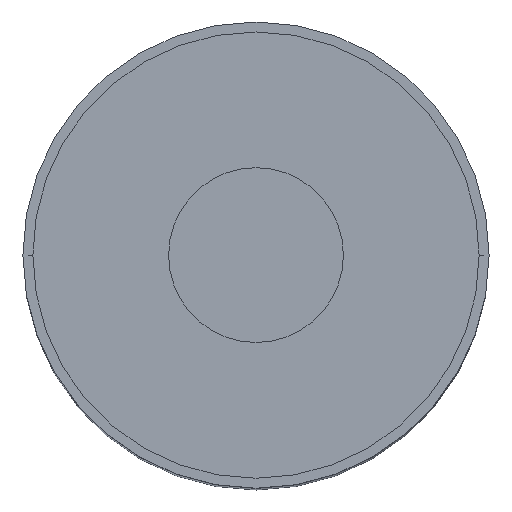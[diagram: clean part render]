
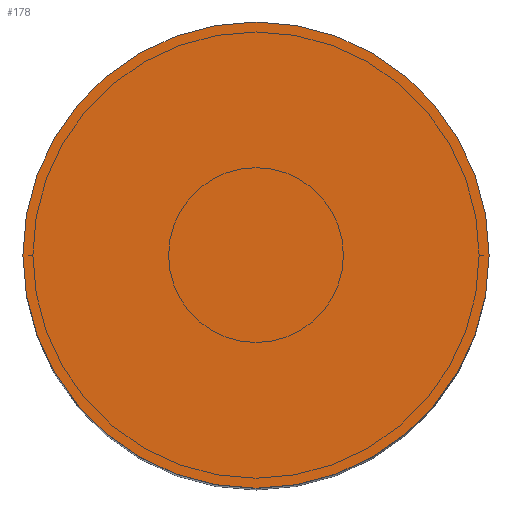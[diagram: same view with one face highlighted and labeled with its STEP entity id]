
A CAD part, top view. The second image highlights one B-rep face of the part: STEP entity #178.
In plain terms, the highlighted planar face has unit normal (0, 0, 1).
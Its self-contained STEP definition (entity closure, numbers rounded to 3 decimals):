
#54 = FACE_OUTER_BOUND ( 'NONE', #336, .T. ) ;
#56 = AXIS2_PLACEMENT_3D ( 'NONE', #317, #438, #503 ) ;
#178 = ADVANCED_FACE ( 'NONE', ( #54 ), #337, .T. ) ;
#257 = CARTESIAN_POINT ( 'NONE',  ( 12., 0., 60.075 ) ) ;
#291 = VERTEX_POINT ( 'NONE', #416 ) ;
#300 = DIRECTION ( 'NONE',  ( 1., 0., 0. ) ) ;
#317 = CARTESIAN_POINT ( 'NONE',  ( 0., 0., 60.075 ) ) ;
#336 = EDGE_LOOP ( 'NONE', ( #417, #471 ) ) ;
#337 = PLANE ( 'NONE',  #56 ) ;
#358 = EDGE_CURVE ( 'NONE', #291, #582, #555, .T. ) ;
#381 = EDGE_CURVE ( 'NONE', #582, #291, #698, .T. ) ;
#416 = CARTESIAN_POINT ( 'NONE',  ( -12., 0., 60.075 ) ) ;
#417 = ORIENTED_EDGE ( 'NONE', *, *, #381, .F. ) ;
#438 = DIRECTION ( 'NONE',  ( 0., 0., 1. ) ) ;
#440 = CARTESIAN_POINT ( 'NONE',  ( 0., 0., 60.075 ) ) ;
#444 = DIRECTION ( 'NONE',  ( 0., 0., -1. ) ) ;
#446 = DIRECTION ( 'NONE',  ( 1., 0., 0. ) ) ;
#471 = ORIENTED_EDGE ( 'NONE', *, *, #358, .F. ) ;
#503 = DIRECTION ( 'NONE',  ( 1., 0., 0. ) ) ;
#555 = CIRCLE ( 'NONE', #664, 12. ) ;
#582 = VERTEX_POINT ( 'NONE', #257 ) ;
#626 = AXIS2_PLACEMENT_3D ( 'NONE', #440, #444, #446 ) ;
#664 = AXIS2_PLACEMENT_3D ( 'NONE', #738, #818, #300 ) ;
#698 = CIRCLE ( 'NONE', #626, 12. ) ;
#738 = CARTESIAN_POINT ( 'NONE',  ( 0., 0., 60.075 ) ) ;
#818 = DIRECTION ( 'NONE',  ( 0., 0., -1. ) ) ;
